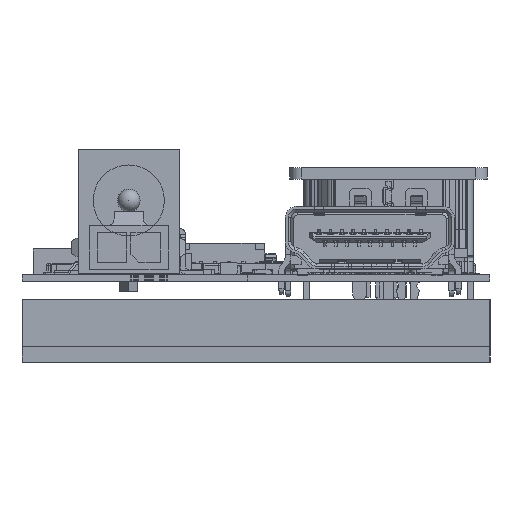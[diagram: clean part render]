
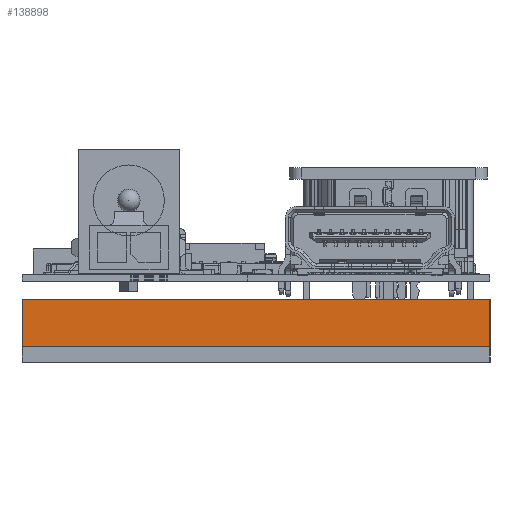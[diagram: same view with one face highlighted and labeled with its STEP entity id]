
A CAD part, left-side view. The second image highlights one B-rep face of the part: STEP entity #138898.
In plain terms, the highlighted planar face has unit normal (-1, 0, 0) as drawn and (1, 0, 0) by its records, which use the part's own axes.
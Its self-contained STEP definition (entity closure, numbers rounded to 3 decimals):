
#14046=FACE_OUTER_BOUND('',#21282,.T.);
#21282=EDGE_LOOP('',(#126446,#126447,#126448,#126449));
#37821=LINE('',#242576,#54381);
#37822=LINE('',#242579,#54382);
#37823=LINE('',#242581,#54383);
#37824=LINE('',#242582,#54384);
#54381=VECTOR('',#185714,10.);
#54382=VECTOR('',#185717,10.);
#54383=VECTOR('',#185718,10.);
#54384=VECTOR('',#185719,10.);
#67177=VERTEX_POINT('',#242569);
#67180=VERTEX_POINT('',#242574);
#67181=VERTEX_POINT('',#242578);
#67182=VERTEX_POINT('',#242580);
#86942=EDGE_CURVE('',#67177,#67180,#37821,.T.);
#86943=EDGE_CURVE('',#67181,#67177,#37822,.T.);
#86944=EDGE_CURVE('',#67182,#67180,#37823,.T.);
#86945=EDGE_CURVE('',#67181,#67182,#37824,.T.);
#126446=ORIENTED_EDGE('',*,*,#86943,.T.);
#126447=ORIENTED_EDGE('',*,*,#86942,.T.);
#126448=ORIENTED_EDGE('',*,*,#86944,.F.);
#126449=ORIENTED_EDGE('',*,*,#86945,.F.);
#131906=PLANE('',#149476);
#138898=ADVANCED_FACE('',(#14046),#131906,.T.);
#149476=AXIS2_PLACEMENT_3D('',#242577,#185715,#185716);
#185714=DIRECTION('',(0.,0.,1.));
#185715=DIRECTION('center_axis',(1.,0.,0.));
#185716=DIRECTION('ref_axis',(0.,1.,0.));
#185717=DIRECTION('',(0.,1.,0.));
#185718=DIRECTION('',(0.,1.,0.));
#185719=DIRECTION('',(0.,0.,1.));
#242569=CARTESIAN_POINT('',(288.92,41.5,0.));
#242574=CARTESIAN_POINT('',(288.92,41.5,4.2));
#242576=CARTESIAN_POINT('',(288.92,41.5,0.));
#242577=CARTESIAN_POINT('Origin',(288.92,0.,0.));
#242578=CARTESIAN_POINT('',(288.92,0.,0.));
#242579=CARTESIAN_POINT('',(288.92,0.,0.));
#242580=CARTESIAN_POINT('',(288.92,0.,4.2));
#242581=CARTESIAN_POINT('',(288.92,0.,4.2));
#242582=CARTESIAN_POINT('',(288.92,0.,0.));
